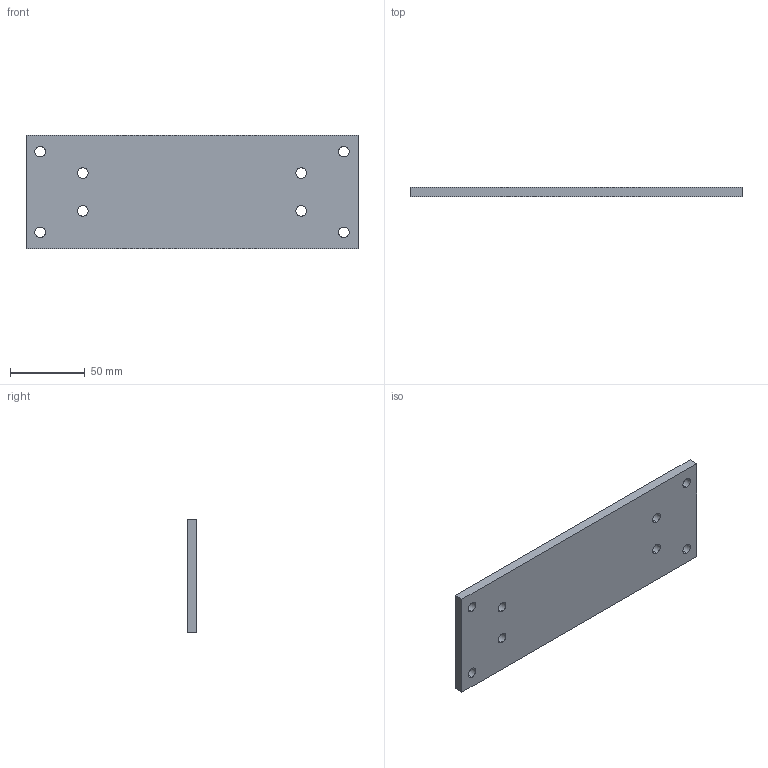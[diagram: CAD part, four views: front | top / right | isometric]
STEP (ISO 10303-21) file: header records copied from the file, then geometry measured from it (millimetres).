
FILE_DESCRIPTION (( 'STEP AP203' ), '1' );
FILE_NAME ('269-18-307.STEP', '2020-03-02T22:31:09', ( '' ), ( '' ), 'SwSTEP 2.0', 'SolidWorks 2017', '' );
FILE_SCHEMA (( 'CONFIG_CONTROL_DESIGN' ));
Length unit declared in the file: inch
Products named in the file (1): 269-18-307
Bounding box: 222.25 x 6.35 x 76.2 mm (x, y, z)
Volume: 105522 mm3; surface area: 38160.6 mm2
Topology: 1 solids, 1 shells, 22 faces, 60 edges, 40 vertices
Faces by surface type: cylinder 16, plane 6
Entity records: 827 total; most frequent: DIRECTION 138, CARTESIAN_POINT 123, ORIENTED_EDGE 120, EDGE_CURVE 60, AXIS2_PLACEMENT_3D 55, VERTEX_POINT 40, EDGE_LOOP 38, CIRCLE 32
